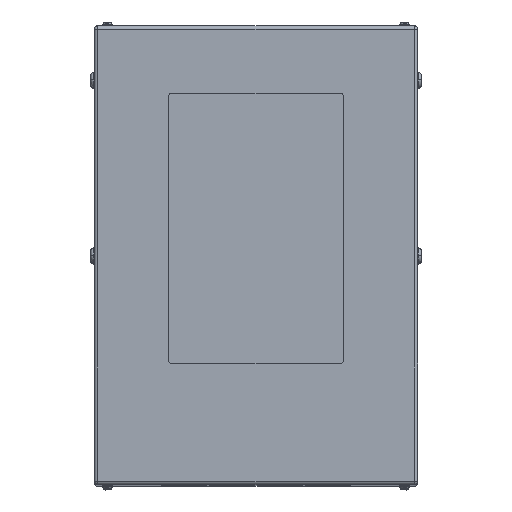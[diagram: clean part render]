
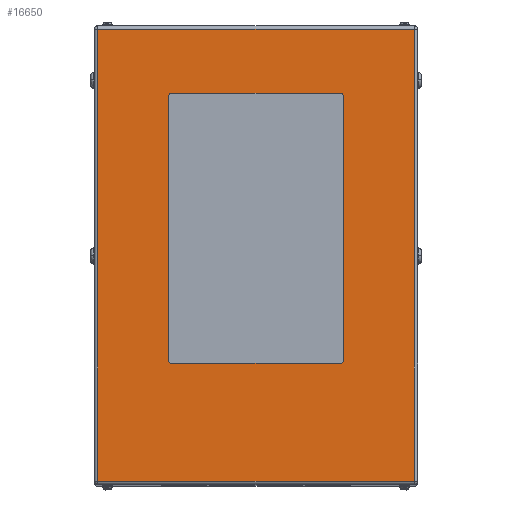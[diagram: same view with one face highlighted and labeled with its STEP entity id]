
A CAD part, top view. The second image highlights one B-rep face of the part: STEP entity #16650.
In plain terms, the highlighted planar face has unit normal (0, 0, 1).
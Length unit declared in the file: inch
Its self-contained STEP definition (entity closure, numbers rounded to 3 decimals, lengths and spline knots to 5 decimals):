
#1 = LINE ( 'NONE', #7250, #12248 ) ;
#620 = CIRCLE ( 'NONE', #19494, 0.25 ) ;
#676 = CARTESIAN_POINT ( 'NONE',  ( -6.25, -8., 29. ) ) ;
#1147 = DIRECTION ( 'NONE',  ( 0., 1., 0. ) ) ;
#2140 = VERTEX_POINT ( 'NONE', #676 ) ;
#2221 = AXIS2_PLACEMENT_3D ( 'NONE', #9718, #4440, #4310 ) ;
#2380 = EDGE_CURVE ( 'NONE', #8225, #7705, #13156, .T. ) ;
#2393 = CARTESIAN_POINT ( 'NONE',  ( 6.5, -7.75, 29. ) ) ;
#2675 = ORIENTED_EDGE ( 'NONE', *, *, #4929, .F. ) ;
#3380 = VECTOR ( 'NONE', #4927, 39.37008 ) ;
#3983 = LINE ( 'NONE', #22047, #5112 ) ;
#4079 = CARTESIAN_POINT ( 'NONE',  ( 6.25, -7.75, 29. ) ) ;
#4201 = CARTESIAN_POINT ( 'NONE',  ( 12., 16.734, 29. ) ) ;
#4211 = EDGE_CURVE ( 'NONE', #7705, #2140, #18176, .T. ) ;
#4310 = DIRECTION ( 'NONE',  ( -1., 0., 0. ) ) ;
#4440 = DIRECTION ( 'NONE',  ( 0., 0., -1. ) ) ;
#4927 = DIRECTION ( 'NONE',  ( 0., -1., 0. ) ) ;
#4929 = EDGE_CURVE ( 'NONE', #9665, #20490, #8529, .T. ) ;
#4958 = CARTESIAN_POINT ( 'NONE',  ( -6.5, -7.75, 29. ) ) ;
#5112 = VECTOR ( 'NONE', #13050, 39.37008 ) ;
#5475 = EDGE_CURVE ( 'NONE', #2140, #17434, #3983, .T. ) ;
#5689 = VERTEX_POINT ( 'NONE', #20027 ) ;
#5846 = VECTOR ( 'NONE', #21640, 39.37008 ) ;
#5911 = ORIENTED_EDGE ( 'NONE', *, *, #5992, .F. ) ;
#5992 = EDGE_CURVE ( 'NONE', #22071, #8225, #8911, .T. ) ;
#6306 = DIRECTION ( 'NONE',  ( 0., 0., 1. ) ) ;
#7161 = DIRECTION ( 'NONE',  ( 0., 0., 1. ) ) ;
#7250 = CARTESIAN_POINT ( 'NONE',  ( 11.734, -16.734, 29. ) ) ;
#7367 = CARTESIAN_POINT ( 'NONE',  ( -6.25, 12., 29. ) ) ;
#7631 = EDGE_LOOP ( 'NONE', ( #20869, #9182, #12947, #5911, #12951, #2675, #17296, #10815 ) ) ;
#7705 = VERTEX_POINT ( 'NONE', #4958 ) ;
#8225 = VERTEX_POINT ( 'NONE', #17127 ) ;
#8529 = CIRCLE ( 'NONE', #17468, 0.25 ) ;
#8588 = LINE ( 'NONE', #20962, #12340 ) ;
#8630 = VERTEX_POINT ( 'NONE', #9694 ) ;
#8911 = CIRCLE ( 'NONE', #11492, 0.25 ) ;
#9182 = ORIENTED_EDGE ( 'NONE', *, *, #4211, .F. ) ;
#9665 = VERTEX_POINT ( 'NONE', #10720 ) ;
#9694 = CARTESIAN_POINT ( 'NONE',  ( 11.734, -16.734, 29. ) ) ;
#9709 = EDGE_CURVE ( 'NONE', #5689, #8630, #1, .T. ) ;
#9718 = CARTESIAN_POINT ( 'NONE',  ( 12., 17., 29. ) ) ;
#10167 = DIRECTION ( 'NONE',  ( 1., 0., 0. ) ) ;
#10202 = VERTEX_POINT ( 'NONE', #2393 ) ;
#10623 = AXIS2_PLACEMENT_3D ( 'NONE', #20588, #6306, #10167 ) ;
#10720 = CARTESIAN_POINT ( 'NONE',  ( 6.5, 11.75, 29. ) ) ;
#10815 = ORIENTED_EDGE ( 'NONE', *, *, #22922, .F. ) ;
#11492 = AXIS2_PLACEMENT_3D ( 'NONE', #12522, #7161, #17945 ) ;
#11558 = VECTOR ( 'NONE', #16747, 39.37008 ) ;
#12095 = DIRECTION ( 'NONE',  ( -1., 0., 0. ) ) ;
#12248 = VECTOR ( 'NONE', #19848, 39.37008 ) ;
#12293 = CARTESIAN_POINT ( 'NONE',  ( 6.25, -8., 29. ) ) ;
#12340 = VECTOR ( 'NONE', #22516, 39.37008 ) ;
#12522 = CARTESIAN_POINT ( 'NONE',  ( -6.25, 11.75, 29. ) ) ;
#12547 = FACE_BOUND ( 'NONE', #7631, .T. ) ;
#12667 = PLANE ( 'NONE',  #2221 ) ;
#12947 = ORIENTED_EDGE ( 'NONE', *, *, #2380, .F. ) ;
#12951 = ORIENTED_EDGE ( 'NONE', *, *, #23342, .F. ) ;
#13050 = DIRECTION ( 'NONE',  ( 1., 0., 0. ) ) ;
#13156 = LINE ( 'NONE', #20398, #3380 ) ;
#13258 = DIRECTION ( 'NONE',  ( -1., 0., 0. ) ) ;
#15013 = EDGE_LOOP ( 'NONE', ( #20976, #22380, #16139, #22983 ) ) ;
#15063 = EDGE_CURVE ( 'NONE', #21565, #5689, #8588, .T. ) ;
#16025 = CARTESIAN_POINT ( 'NONE',  ( -6.25, 12., 29. ) ) ;
#16139 = ORIENTED_EDGE ( 'NONE', *, *, #17159, .T. ) ;
#16650 = ADVANCED_FACE ( 'NONE', ( #12547, #17858 ), #12667, .F. ) ;
#16747 = DIRECTION ( 'NONE',  ( -1., 0., 0. ) ) ;
#17127 = CARTESIAN_POINT ( 'NONE',  ( -6.5, 11.75, 29. ) ) ;
#17159 = EDGE_CURVE ( 'NONE', #8630, #20241, #21119, .T. ) ;
#17296 = ORIENTED_EDGE ( 'NONE', *, *, #20088, .F. ) ;
#17353 = CARTESIAN_POINT ( 'NONE',  ( 11.734, 16.734, 29. ) ) ;
#17434 = VERTEX_POINT ( 'NONE', #12293 ) ;
#17468 = AXIS2_PLACEMENT_3D ( 'NONE', #19426, #17656, #12095 ) ;
#17656 = DIRECTION ( 'NONE',  ( 0., 0., 1. ) ) ;
#17858 = FACE_OUTER_BOUND ( 'NONE', #15013, .T. ) ;
#17945 = DIRECTION ( 'NONE',  ( 1., 0., 0. ) ) ;
#18176 = CIRCLE ( 'NONE', #10623, 0.25 ) ;
#18536 = CARTESIAN_POINT ( 'NONE',  ( 6.5, 11.75, 29. ) ) ;
#19079 = CARTESIAN_POINT ( 'NONE',  ( 11.734, 17., 29. ) ) ;
#19426 = CARTESIAN_POINT ( 'NONE',  ( 6.25, 11.75, 29. ) ) ;
#19494 = AXIS2_PLACEMENT_3D ( 'NONE', #4079, #22264, #20493 ) ;
#19848 = DIRECTION ( 'NONE',  ( 1., 0., 0. ) ) ;
#19856 = LINE ( 'NONE', #18536, #5846 ) ;
#20027 = CARTESIAN_POINT ( 'NONE',  ( -11.734, -16.734, 29. ) ) ;
#20088 = EDGE_CURVE ( 'NONE', #10202, #9665, #19856, .T. ) ;
#20117 = LINE ( 'NONE', #7367, #11558 ) ;
#20241 = VERTEX_POINT ( 'NONE', #17353 ) ;
#20269 = VECTOR ( 'NONE', #13258, 39.37008 ) ;
#20371 = VECTOR ( 'NONE', #1147, 39.37008 ) ;
#20387 = LINE ( 'NONE', #4201, #20269 ) ;
#20398 = CARTESIAN_POINT ( 'NONE',  ( -6.5, 11.75, 29. ) ) ;
#20484 = CARTESIAN_POINT ( 'NONE',  ( -11.734, 16.734, 29. ) ) ;
#20490 = VERTEX_POINT ( 'NONE', #21133 ) ;
#20493 = DIRECTION ( 'NONE',  ( 1., 0., 0. ) ) ;
#20588 = CARTESIAN_POINT ( 'NONE',  ( -6.25, -7.75, 29. ) ) ;
#20869 = ORIENTED_EDGE ( 'NONE', *, *, #5475, .F. ) ;
#20962 = CARTESIAN_POINT ( 'NONE',  ( -11.734, 17., 29. ) ) ;
#20976 = ORIENTED_EDGE ( 'NONE', *, *, #15063, .T. ) ;
#21119 = LINE ( 'NONE', #19079, #20371 ) ;
#21133 = CARTESIAN_POINT ( 'NONE',  ( 6.25, 12., 29. ) ) ;
#21565 = VERTEX_POINT ( 'NONE', #20484 ) ;
#21640 = DIRECTION ( 'NONE',  ( 0., 1., 0. ) ) ;
#22047 = CARTESIAN_POINT ( 'NONE',  ( -6.25, -8., 29. ) ) ;
#22071 = VERTEX_POINT ( 'NONE', #16025 ) ;
#22264 = DIRECTION ( 'NONE',  ( 0., 0., 1. ) ) ;
#22380 = ORIENTED_EDGE ( 'NONE', *, *, #9709, .T. ) ;
#22516 = DIRECTION ( 'NONE',  ( 0., -1., 0. ) ) ;
#22922 = EDGE_CURVE ( 'NONE', #17434, #10202, #620, .T. ) ;
#22980 = EDGE_CURVE ( 'NONE', #20241, #21565, #20387, .T. ) ;
#22983 = ORIENTED_EDGE ( 'NONE', *, *, #22980, .T. ) ;
#23342 = EDGE_CURVE ( 'NONE', #20490, #22071, #20117, .T. ) ;
